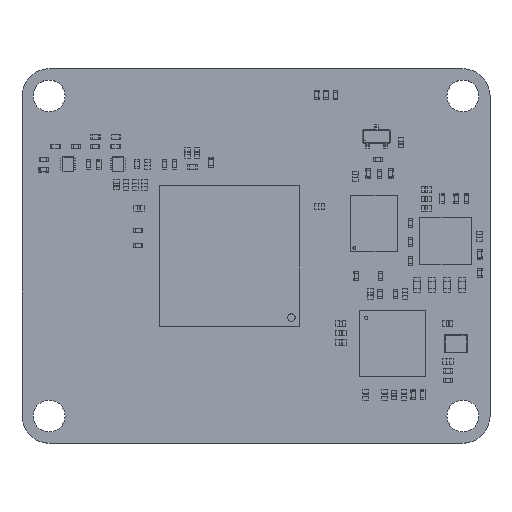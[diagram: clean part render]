
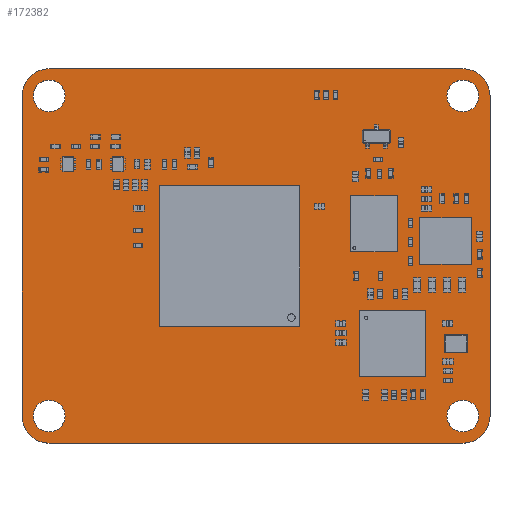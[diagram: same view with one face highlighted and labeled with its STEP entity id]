
A CAD part, top view. The second image highlights one B-rep face of the part: STEP entity #172382.
In plain terms, the highlighted planar face has unit normal (0, 0, 1).
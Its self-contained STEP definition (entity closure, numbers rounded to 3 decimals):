
#172189 = VERTEX_POINT('',#172190);
#172190 = CARTESIAN_POINT('',(22.1,20.,1.51));
#172196 = EDGE_CURVE('',#172189,#172197,#172199,.T.);
#172197 = VERTEX_POINT('',#172198);
#172198 = CARTESIAN_POINT('',(25.,17.1,1.51));
#172199 = CIRCLE('',#172200,2.9);
#172200 = AXIS2_PLACEMENT_3D('',#172201,#172202,#172203);
#172201 = CARTESIAN_POINT('',(22.1,17.1,1.51));
#172202 = DIRECTION('',(0.,0.,-1.));
#172203 = DIRECTION('',(0.,1.,0.));
#172231 = VERTEX_POINT('',#172232);
#172232 = CARTESIAN_POINT('',(-22.1,20.,1.51));
#172238 = EDGE_CURVE('',#172231,#172189,#172239,.T.);
#172239 = LINE('',#172240,#172241);
#172240 = CARTESIAN_POINT('',(-22.1,20.,1.51));
#172241 = VECTOR('',#172242,1.);
#172242 = DIRECTION('',(1.,0.,0.));
#172260 = EDGE_CURVE('',#172197,#172261,#172263,.T.);
#172261 = VERTEX_POINT('',#172262);
#172262 = CARTESIAN_POINT('',(25.,-17.1,1.51));
#172263 = LINE('',#172264,#172265);
#172264 = CARTESIAN_POINT('',(25.,17.1,1.51));
#172265 = VECTOR('',#172266,1.);
#172266 = DIRECTION('',(0.,-1.,0.));
#172382 = ADVANCED_FACE('',(#172383,#172429,#172440,#172451,#172462),
  #172473,.T.);
#172383 = FACE_BOUND('',#172384,.T.);
#172384 = EDGE_LOOP('',(#172385,#172386,#172387,#172396,#172404,#172413,
    #172421,#172428));
#172385 = ORIENTED_EDGE('',*,*,#172196,.F.);
#172386 = ORIENTED_EDGE('',*,*,#172238,.F.);
#172387 = ORIENTED_EDGE('',*,*,#172388,.F.);
#172388 = EDGE_CURVE('',#172389,#172231,#172391,.T.);
#172389 = VERTEX_POINT('',#172390);
#172390 = CARTESIAN_POINT('',(-25.,17.1,1.51));
#172391 = CIRCLE('',#172392,2.9);
#172392 = AXIS2_PLACEMENT_3D('',#172393,#172394,#172395);
#172393 = CARTESIAN_POINT('',(-22.1,17.1,1.51));
#172394 = DIRECTION('',(0.,0.,-1.));
#172395 = DIRECTION('',(-1.,0.,-0.));
#172396 = ORIENTED_EDGE('',*,*,#172397,.F.);
#172397 = EDGE_CURVE('',#172398,#172389,#172400,.T.);
#172398 = VERTEX_POINT('',#172399);
#172399 = CARTESIAN_POINT('',(-25.,-17.1,1.51));
#172400 = LINE('',#172401,#172402);
#172401 = CARTESIAN_POINT('',(-25.,-17.1,1.51));
#172402 = VECTOR('',#172403,1.);
#172403 = DIRECTION('',(0.,1.,0.));
#172404 = ORIENTED_EDGE('',*,*,#172405,.F.);
#172405 = EDGE_CURVE('',#172406,#172398,#172408,.T.);
#172406 = VERTEX_POINT('',#172407);
#172407 = CARTESIAN_POINT('',(-22.1,-20.,1.51));
#172408 = CIRCLE('',#172409,2.9);
#172409 = AXIS2_PLACEMENT_3D('',#172410,#172411,#172412);
#172410 = CARTESIAN_POINT('',(-22.1,-17.1,1.51));
#172411 = DIRECTION('',(0.,0.,-1.));
#172412 = DIRECTION('',(0.,-1.,0.));
#172413 = ORIENTED_EDGE('',*,*,#172414,.F.);
#172414 = EDGE_CURVE('',#172415,#172406,#172417,.T.);
#172415 = VERTEX_POINT('',#172416);
#172416 = CARTESIAN_POINT('',(22.1,-20.,1.51));
#172417 = LINE('',#172418,#172419);
#172418 = CARTESIAN_POINT('',(22.1,-20.,1.51));
#172419 = VECTOR('',#172420,1.);
#172420 = DIRECTION('',(-1.,0.,0.));
#172421 = ORIENTED_EDGE('',*,*,#172422,.F.);
#172422 = EDGE_CURVE('',#172261,#172415,#172423,.T.);
#172423 = CIRCLE('',#172424,2.9);
#172424 = AXIS2_PLACEMENT_3D('',#172425,#172426,#172427);
#172425 = CARTESIAN_POINT('',(22.1,-17.1,1.51));
#172426 = DIRECTION('',(0.,0.,-1.));
#172427 = DIRECTION('',(1.,0.,0.));
#172428 = ORIENTED_EDGE('',*,*,#172260,.F.);
#172429 = FACE_BOUND('',#172430,.T.);
#172430 = EDGE_LOOP('',(#172431));
#172431 = ORIENTED_EDGE('',*,*,#172432,.T.);
#172432 = EDGE_CURVE('',#172433,#172433,#172435,.T.);
#172433 = VERTEX_POINT('',#172434);
#172434 = CARTESIAN_POINT('',(-22.1,-18.8,1.51));
#172435 = CIRCLE('',#172436,1.7);
#172436 = AXIS2_PLACEMENT_3D('',#172437,#172438,#172439);
#172437 = CARTESIAN_POINT('',(-22.1,-17.1,1.51));
#172438 = DIRECTION('',(-0.,0.,-1.));
#172439 = DIRECTION('',(-0.,-1.,0.));
#172440 = FACE_BOUND('',#172441,.T.);
#172441 = EDGE_LOOP('',(#172442));
#172442 = ORIENTED_EDGE('',*,*,#172443,.T.);
#172443 = EDGE_CURVE('',#172444,#172444,#172446,.T.);
#172444 = VERTEX_POINT('',#172445);
#172445 = CARTESIAN_POINT('',(22.1,-18.8,1.51));
#172446 = CIRCLE('',#172447,1.7);
#172447 = AXIS2_PLACEMENT_3D('',#172448,#172449,#172450);
#172448 = CARTESIAN_POINT('',(22.1,-17.1,1.51));
#172449 = DIRECTION('',(-0.,0.,-1.));
#172450 = DIRECTION('',(-0.,-1.,0.));
#172451 = FACE_BOUND('',#172452,.T.);
#172452 = EDGE_LOOP('',(#172453));
#172453 = ORIENTED_EDGE('',*,*,#172454,.T.);
#172454 = EDGE_CURVE('',#172455,#172455,#172457,.T.);
#172455 = VERTEX_POINT('',#172456);
#172456 = CARTESIAN_POINT('',(-22.1,15.4,1.51));
#172457 = CIRCLE('',#172458,1.7);
#172458 = AXIS2_PLACEMENT_3D('',#172459,#172460,#172461);
#172459 = CARTESIAN_POINT('',(-22.1,17.1,1.51));
#172460 = DIRECTION('',(-0.,0.,-1.));
#172461 = DIRECTION('',(-0.,-1.,0.));
#172462 = FACE_BOUND('',#172463,.T.);
#172463 = EDGE_LOOP('',(#172464));
#172464 = ORIENTED_EDGE('',*,*,#172465,.T.);
#172465 = EDGE_CURVE('',#172466,#172466,#172468,.T.);
#172466 = VERTEX_POINT('',#172467);
#172467 = CARTESIAN_POINT('',(22.1,15.4,1.51));
#172468 = CIRCLE('',#172469,1.7);
#172469 = AXIS2_PLACEMENT_3D('',#172470,#172471,#172472);
#172470 = CARTESIAN_POINT('',(22.1,17.1,1.51));
#172471 = DIRECTION('',(-0.,0.,-1.));
#172472 = DIRECTION('',(-0.,-1.,0.));
#172473 = PLANE('',#172474);
#172474 = AXIS2_PLACEMENT_3D('',#172475,#172476,#172477);
#172475 = CARTESIAN_POINT('',(0.,0.,1.51));
#172476 = DIRECTION('',(0.,0.,1.));
#172477 = DIRECTION('',(1.,0.,-0.));
